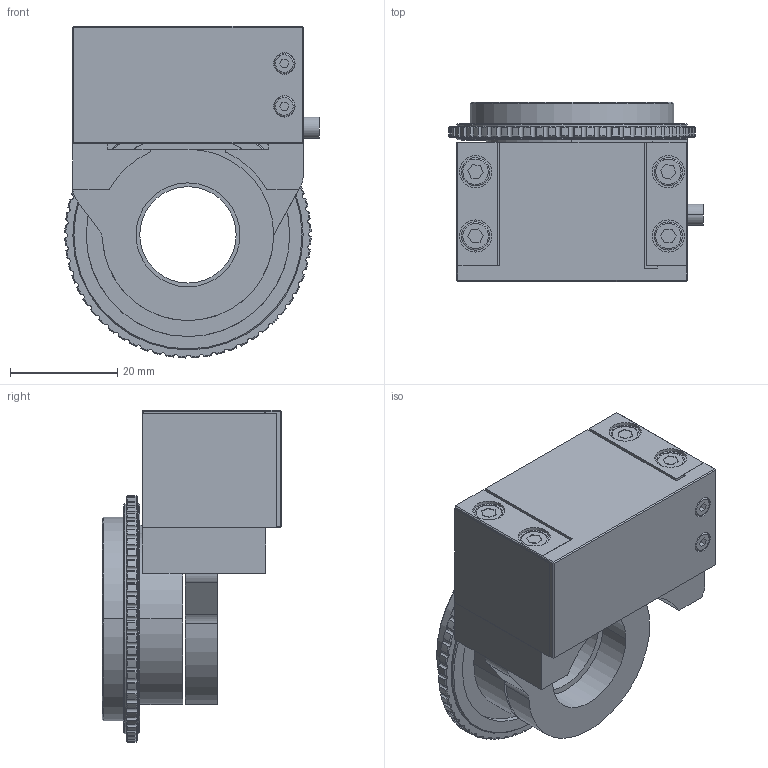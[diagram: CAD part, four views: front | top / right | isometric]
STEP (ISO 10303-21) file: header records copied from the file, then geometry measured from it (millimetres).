
FILE_DESCRIPTION (( 'STEP AP214' ), '1' );
FILE_NAME ('P72.Z80-B1.STEP', '2025-04-08T02:45:10', ( 'Windows User' ), ( 'P R C' ), 'SwSTEP 2.0', 'SolidWorks 2016', '' );
FILE_SCHEMA (( 'AUTOMOTIVE_DESIGN' ));
Length unit declared in the file: millimetre
Products named in the file (1): P72.Z80-B1
Bounding box: 47.5 x 33.5 x 62 mm (x, y, z)
Volume: 43033.6 mm3; surface area: 20227.7 mm2
Topology: 14 solids, 14 shells, 493 faces, 1349 edges, 884 vertices
Faces by surface type: cylinder 214, cone 134, plane 133, torus 12
Entity records: 21496 total; most frequent: CARTESIAN_POINT 3487, ORIENTED_EDGE 2682, DIRECTION 2643, EDGE_CURVE 1341, AXIS2_PLACEMENT_3D 1064, VERTEX_POINT 884, CIRCLE 570, EDGE_LOOP 533
